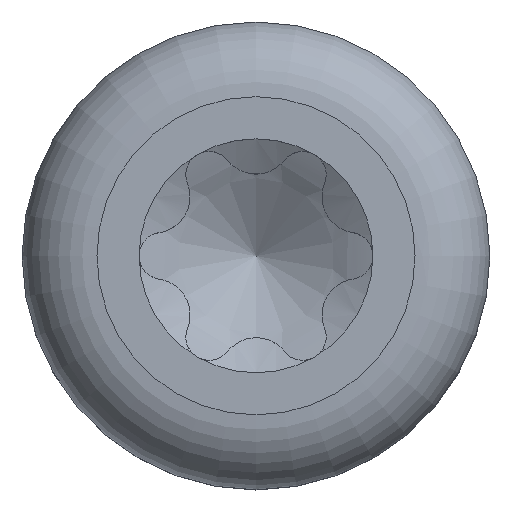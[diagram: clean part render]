
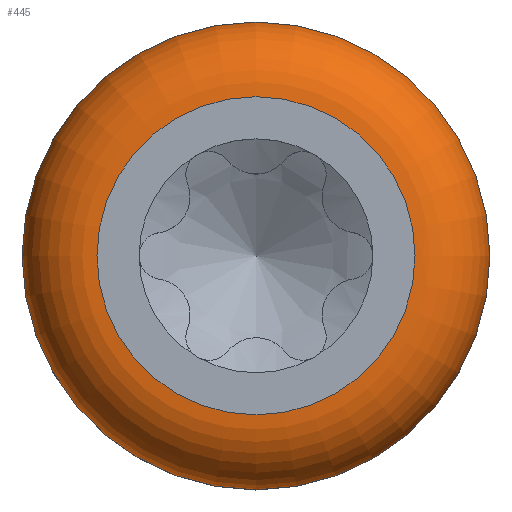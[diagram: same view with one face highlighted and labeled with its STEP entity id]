
A CAD part, top view. The second image highlights one B-rep face of the part: STEP entity #445.
In plain terms, the highlighted toroidal (fillet/blend) face has major radius 0.68 mm and minor radius 0.32 mm.
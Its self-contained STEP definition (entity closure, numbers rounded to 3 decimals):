
#445=ADVANCED_FACE('',(#737,#738),#555,.T.);
#555=TOROIDAL_SURFACE('',#1934,0.68,0.32);
#737=FACE_BOUND('',#761,.T.);
#738=FACE_BOUND('',#762,.T.);
#761=EDGE_LOOP('',(#949));
#762=EDGE_LOOP('',(#950));
#949=ORIENTED_EDGE('',*,*,#1682,.F.);
#950=ORIENTED_EDGE('',*,*,#1681,.T.);
#1501=VERTEX_POINT('',#4578);
#1502=VERTEX_POINT('',#4581);
#1681=EDGE_CURVE('',#1501,#1501,#1904,.T.);
#1682=EDGE_CURVE('',#1502,#1502,#1905,.T.);
#1904=CIRCLE('',#1931,1.);
#1905=CIRCLE('',#1933,0.68);
#1931=AXIS2_PLACEMENT_3D('',#4577,#2004,#2005);
#1933=AXIS2_PLACEMENT_3D('',#4580,#2008,#2009);
#1934=AXIS2_PLACEMENT_3D('',#4582,#2010,#2011);
#2004=DIRECTION('',(0.,0.,1.));
#2005=DIRECTION('',(1.,0.,0.));
#2008=DIRECTION('',(0.,0.,1.));
#2009=DIRECTION('',(1.,0.,0.));
#2010=DIRECTION('',(0.,0.,1.));
#2011=DIRECTION('',(1.,0.,0.));
#4577=CARTESIAN_POINT('',(0.,0.,0.48));
#4578=CARTESIAN_POINT('',(1.,0.,0.48));
#4580=CARTESIAN_POINT('',(0.,0.,0.8));
#4581=CARTESIAN_POINT('',(0.68,0.,0.8));
#4582=CARTESIAN_POINT('',(0.,0.,0.48));
